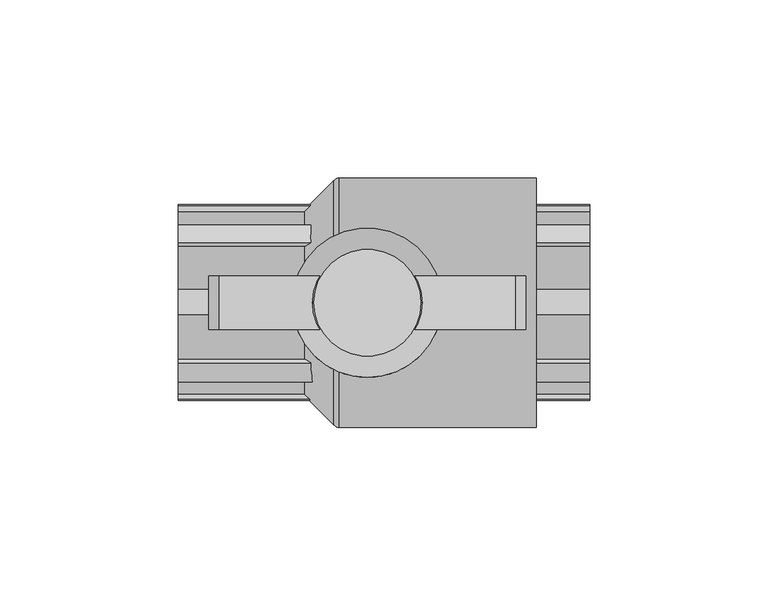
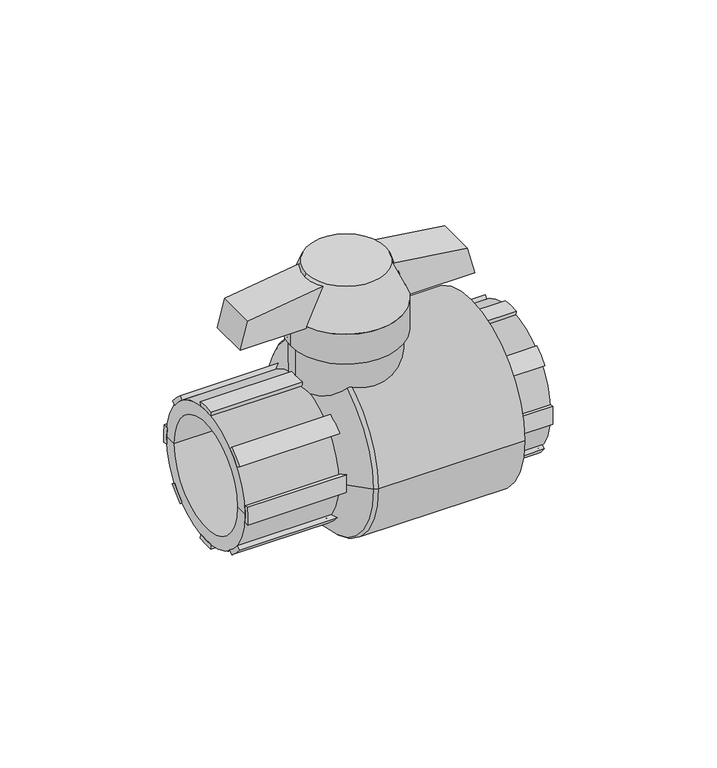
"""IFC4 building model written with IfcOpenShell, lengths in millimetres: valve geometry, Valvula Bola_Lubrizol_CPVC_FlowGuard_MX 38mm : Valvula Bola_Lubrizol_CPVC_FlowGuard_MX 38mm."""

from ifc_helpers import new_model, si_unit, point, frame, frame_2d, origin, place, context, project, spatial, polyline, circle_curve, ellipse_curve, trimmed, segment, composite_curve, outline, extrude, source, transform, mapped, element, save
from ifc_brep_helpers import plane_surface, cylinder_surface, revolved_surface, advanced_brep


def valve_b7df9ec0(model_context):
    return source(origin(), model_context, "Body", "SolidModel", [
        extrude(outline(polyline([(51.6194234, -26.3749423), (51.6194234, 62.6249423), (62.3168705, 59.75857), (66.6194234, 28.6250577), (66.6194234, 7.6249423), (62.3168705, -23.50857), (51.6194234, -26.3749423)])), frame((0.0, -7.5, 0.0), z_axis=(0.0, 1.0, 0.0), x_axis=(0.0, 0.0, 1.0)), (0.0, 0.0, 1.0), 15.0),
        extrude(outline(composite_curve([segment(trimmed(circle_curve(frame_2d((0.1687378, 5.7305188)), 20.2671095), [point((3.4847786, 25.7245079))], [point((-3.1583471, 25.7226731))], True, "CARTESIAN"), True, "CONTINUOUS"), segment(polyline([(-3.1583471, 25.7226731), (-3.3598633, 27.363891)]), True, "CONTINUOUS"), segment(trimmed(circle_curve(frame_2d((-0.1437365, 1.0901714)), 26.4698284), [point((-3.3598633, 27.363891))], [point((3.6955065, 27.2800936))], False, "CARTESIAN"), True, "CONTINUOUS"), segment(polyline([(3.6955065, 27.2800936), (3.4847786, 25.7245079)]), True, "CONTINUOUS")], self_intersect=False)), frame((65.625, 0.0, 0.0), z_axis=(1.0, 0.0, 0.0), x_axis=(0.0, 1.0, 0.0)), (0.0, 0.0, 1.0), 15.0),
        extrude(outline(composite_curve([segment(polyline([(25.4636419, 3.4494403), (27.3100388, 3.699563)]), True, "CONTINUOUS"), segment(trimmed(circle_curve(frame_2d((1.2010328, -0.6560793)), 26.4698284), [point((27.3100388, 3.699563))], [point((27.5303028, -3.3802961))], False, "CARTESIAN"), True, "CONTINUOUS"), segment(polyline([(27.5303028, -3.3802961), (25.7625889, -3.1632482)]), True, "CONTINUOUS"), segment(trimmed(circle_curve(frame_2d((5.6384806, -0.7599188)), 20.2671095), [point((25.7625889, -3.1632482))], [point((25.4636419, 3.4494403))], True, "CARTESIAN"), True, "CONTINUOUS")], self_intersect=False)), frame((65.625, 0.0, 0.0), z_axis=(1.0, 0.0, 0.0), x_axis=(0.0, 1.0, 0.0)), (0.0, 0.0, 1.0), 15.0),
        extrude(outline(composite_curve([segment(trimmed(circle_curve(frame_2d((3.7866187, 4.1193741)), 20.2671095), [point((20.4885583, 15.599833))], [point((15.9084149, 20.3618425))], True, "CARTESIAN"), True, "CONTINUOUS"), segment(polyline([(15.9084149, 20.3618425), (16.8927383, 21.621719)]), True, "CONTINUOUS"), segment(trimmed(circle_curve(frame_2d((0.8543867, 0.5641053)), 26.4698284), [point((16.8927383, 21.621719))], [point((21.8728053, 16.6537882))], False, "CARTESIAN"), True, "CONTINUOUS"), segment(polyline([(21.8728053, 16.6537882), (20.4885583, 15.599833)]), True, "CONTINUOUS")], self_intersect=False)), frame((65.625, 0.0, 0.0), z_axis=(1.0, 0.0, 0.0), x_axis=(0.0, 1.0, 0.0)), (0.0, 0.0, 1.0), 15.0),
        extrude(outline(composite_curve([segment(polyline([(20.6648778, -15.7340813), (21.9228348, -16.6918802)]), True, "CONTINUOUS"), segment(trimmed(circle_curve(frame_2d((1.3735841, -0.0071533)), 26.4698284), [point((21.9228348, -16.6918802))], [point((16.8070461, -21.512038))], False, "CARTESIAN"), True, "CONTINUOUS"), segment(polyline([(16.8070461, -21.512038), (15.9213431, -20.3783899)]), True, "CONTINUOUS"), segment(trimmed(circle_curve(frame_2d((4.3058161, -3.7701011)), 20.2671095), [point((15.9213431, -20.3783899))], [point((20.6648778, -15.7340813))], True, "CARTESIAN"), True, "CONTINUOUS")], self_intersect=False)), frame((65.625, 0.0, 0.0), z_axis=(1.0, 0.0, 0.0), x_axis=(0.0, 1.0, 0.0)), (0.0, 0.0, 1.0), 15.0),
        extrude(outline(composite_curve([segment(polyline([(3.4790922, -25.6825309), (3.7117206, -27.3997854)]), True, "CONTINUOUS"), segment(trimmed(circle_curve(frame_2d((0.04956, -1.1845152)), 26.4698284), [point((3.7117206, -27.3997854))], [point((-3.3683184, -27.4327517))], False, "CARTESIAN"), True, "CONTINUOUS"), segment(polyline([(-3.3683184, -27.4327517), (-3.162097, -25.7532136)]), True, "CONTINUOUS"), segment(trimmed(circle_curve(frame_2d((-0.0542794, -5.7258025)), 20.2671095), [point((-3.162097, -25.7532136))], [point((3.4790922, -25.6825309))], True, "CARTESIAN"), True, "CONTINUOUS")], self_intersect=False)), frame((65.625, 0.0, 0.0), z_axis=(1.0, 0.0, 0.0), x_axis=(0.0, 1.0, 0.0)), (0.0, 0.0, 1.0), 15.0),
        extrude(outline(composite_curve([segment(trimmed(circle_curve(frame_2d((-5.7562489, -0.0256569)), 20.2671095), [point((-25.7171987, 3.4837885))], [point((-25.7787069, -3.1652272))], True, "CARTESIAN"), True, "CONTINUOUS"), segment(polyline([(-25.7787069, -3.1652272), (-27.3296789, -3.3556626)]), True, "CONTINUOUS"), segment(trimmed(circle_curve(frame_2d((-1.03694, -0.2989166)), 26.4698284), [point((-27.3296789, -3.3556626))], [point((-27.2051909, 3.6853598))], False, "CARTESIAN"), True, "CONTINUOUS"), segment(polyline([(-27.2051909, 3.6853598), (-25.7171987, 3.4837885)]), True, "CONTINUOUS")], self_intersect=False)), frame((65.625, 0.0, 0.0), z_axis=(1.0, 0.0, 0.0), x_axis=(0.0, 1.0, 0.0)), (0.0, 0.0, 1.0), 15.0),
        extrude(outline(composite_curve([segment(polyline([(-20.7405385, 15.7916888), (-22.210197, 16.9106756)]), True, "CONTINUOUS"), segment(trimmed(circle_curve(frame_2d((-2.2776676, -0.5061577)), 26.4698284), [point((-22.210197, 16.9106756))], [point((-16.8625337, 21.5830589))], False, "CARTESIAN"), True, "CONTINUOUS"), segment(polyline([(-16.8625337, 21.5830589), (-15.9297193, 20.3891109)]), True, "CONTINUOUS"), segment(trimmed(circle_curve(frame_2d((-4.5227487, 3.6368946)), 20.2671095), [point((-15.9297193, 20.3891109))], [point((-20.7405385, 15.7916888))], True, "CARTESIAN"), True, "CONTINUOUS")], self_intersect=False)), frame((65.625, 0.0, 0.0), z_axis=(1.0, 0.0, 0.0), x_axis=(0.0, 1.0, 0.0)), (0.0, 0.0, 1.0), 15.0),
        extrude(outline(composite_curve([segment(trimmed(circle_curve(frame_2d((-4.206696, -3.6662616)), 20.2671095), [point((-20.5524206, -15.6484572))], [point((-15.8338545, -20.2664095))], True, "CARTESIAN"), True, "CONTINUOUS"), segment(polyline([(-15.8338545, -20.2664095), (-16.8759977, -21.600292)]), True, "CONTINUOUS"), segment(trimmed(circle_curve(frame_2d((-0.8591061, -0.5263507)), 26.4698284), [point((-16.8759977, -21.600292))], [point((-21.8575116, -16.6421436))], False, "CARTESIAN"), True, "CONTINUOUS"), segment(polyline([(-21.8575116, -16.6421436), (-20.5524206, -15.6484572)]), True, "CONTINUOUS")], self_intersect=False)), frame((65.625, 0.0, 0.0), z_axis=(1.0, 0.0, 0.0), x_axis=(0.0, 1.0, 0.0)), (0.0, 0.0, 1.0), 15.0),
        advanced_brep(
        [(3.125, 0.0, 67.6194234), (33.125, 0.0, 67.6194234), (-2.875, 0.0, 52.6194234), (39.125, 0.0, 52.6194234)],
        [
            (0, 1, circle_curve(frame((18.125, 0.0, 67.6194234), z_axis=(0.0, 0.0, 1.0), x_axis=(-1.0, 0.0, 0.0)), 15.0)),
            (1, 0, circle_curve(frame((18.125, 0.0, 67.6194234), z_axis=(0.0, 0.0, 1.0), x_axis=(1.0, 0.0, 0.0)), 15.0)),
            (2, 3, circle_curve(frame((18.125, 0.0, 52.6194234), z_axis=(0.0, 0.0, -1.0), x_axis=(1.0, 0.0, 0.0)), 21.0)),
            (3, 2, circle_curve(frame((18.125, 0.0, 52.6194234), z_axis=(0.0, 0.0, -1.0), x_axis=(-1.0, 0.0, 0.0)), 21.0)),
            (3, 1),
            (0, 2),
        ],
        [
            plane_surface(frame((18.125, 0.0, 67.6194234), z_axis=(0.0, 0.0, 1.0), x_axis=(0.0, -1.0, 0.0))),
            plane_surface(frame((18.125, 0.0, 52.6194234), z_axis=(0.0, 0.0, -1.0), x_axis=(0.0, -1.0, 0.0))),
            revolved_surface(polyline([(3.125, 0.0, 67.6194234), (-2.875, 0.0, 52.6194234)]), (18.125, 0.0, 105.1194234), (0.0, 0.0, -1.0)),
            revolved_surface(polyline([(33.125, 0.0, 67.6194234), (39.125, 0.0, 52.6194234)]), (18.125, 0.0, 105.1194234), (0.0, 0.0, -1.0)),
        ],
        [
            (0, [[1, 2]]),
            (1, [[3, 4]]),
            (2, [[-4, 5, -1, 6]]),
            (3, [[-3, -6, -2, -5]]),
        ],
    ),
        extrude(outline(composite_curve([segment(trimmed(circle_curve(frame_2d((18.125, 0.0)), 21.0), [point((-2.875, 0.0))], [point((39.125, 0.0))], False, "CARTESIAN"), True, "CONTINUOUS"), segment(trimmed(circle_curve(frame_2d((18.125, 0.0)), 21.0), [point((39.125, 0.0))], [point((-2.875, 0.0))], False, "CARTESIAN"), True, "CONTINUOUS")], self_intersect=False)), frame((0.0, 0.0, 40.6194234), z_axis=(0.0, 0.0, 1.0), x_axis=(1.0, 0.0, 0.0)), (0.0, 0.0, 1.0), 12.0),
        extrude(outline(composite_curve([segment(trimmed(circle_curve(frame_2d((0.1687378, 5.7305188)), 20.2671095), [point((3.4847786, 25.7245079))], [point((-3.1583471, 25.7226731))], True, "CARTESIAN"), True, "CONTINUOUS"), segment(polyline([(-3.1583471, 25.7226731), (-3.3598633, 27.363891)]), True, "CONTINUOUS"), segment(trimmed(circle_curve(frame_2d((-0.1437365, 1.0901714)), 26.4698284), [point((-3.3598633, 27.363891))], [point((3.6955065, 27.2800936))], False, "CARTESIAN"), True, "CONTINUOUS"), segment(polyline([(3.6955065, 27.2800936), (3.4847786, 25.7245079)]), True, "CONTINUOUS")], self_intersect=False)), frame((-35.0, 0.0, 0.0), z_axis=(1.0, 0.0, 0.0), x_axis=(0.0, 1.0, 0.0)), (0.0, 0.0, 1.0), 38.7739222),
        extrude(outline(composite_curve([segment(polyline([(25.4636419, 3.4494403), (27.3100388, 3.699563)]), True, "CONTINUOUS"), segment(trimmed(circle_curve(frame_2d((1.2010328, -0.6560793)), 26.4698284), [point((27.3100388, 3.699563))], [point((27.5303028, -3.3802961))], False, "CARTESIAN"), True, "CONTINUOUS"), segment(polyline([(27.5303028, -3.3802961), (25.7625889, -3.1632482)]), True, "CONTINUOUS"), segment(trimmed(circle_curve(frame_2d((5.6384806, -0.7599188)), 20.2671095), [point((25.7625889, -3.1632482))], [point((25.4636419, 3.4494403))], True, "CARTESIAN"), True, "CONTINUOUS")], self_intersect=False)), frame((-35.0, 0.0, 0.0), z_axis=(1.0, 0.0, 0.0), x_axis=(0.0, 1.0, 0.0)), (0.0, 0.0, 1.0), 38.7739222),
        extrude(outline(composite_curve([segment(trimmed(circle_curve(frame_2d((3.7866187, 4.1193741)), 20.2671095), [point((20.4885583, 15.599833))], [point((15.9084149, 20.3618425))], True, "CARTESIAN"), True, "CONTINUOUS"), segment(polyline([(15.9084149, 20.3618425), (16.8927383, 21.621719)]), True, "CONTINUOUS"), segment(trimmed(circle_curve(frame_2d((0.8543867, 0.5641053)), 26.4698284), [point((16.8927383, 21.621719))], [point((21.8728053, 16.6537882))], False, "CARTESIAN"), True, "CONTINUOUS"), segment(polyline([(21.8728053, 16.6537882), (20.4885583, 15.599833)]), True, "CONTINUOUS")], self_intersect=False)), frame((-35.0, 0.0, 0.0), z_axis=(1.0, 0.0, 0.0), x_axis=(0.0, 1.0, 0.0)), (0.0, 0.0, 1.0), 38.7739222),
        extrude(outline(composite_curve([segment(polyline([(20.6648778, -15.7340813), (21.9228348, -16.6918802)]), True, "CONTINUOUS"), segment(trimmed(circle_curve(frame_2d((1.3735841, -0.0071533)), 26.4698284), [point((21.9228348, -16.6918802))], [point((16.8070461, -21.512038))], False, "CARTESIAN"), True, "CONTINUOUS"), segment(polyline([(16.8070461, -21.512038), (15.9213431, -20.3783899)]), True, "CONTINUOUS"), segment(trimmed(circle_curve(frame_2d((4.3058161, -3.7701011)), 20.2671095), [point((15.9213431, -20.3783899))], [point((20.6648778, -15.7340813))], True, "CARTESIAN"), True, "CONTINUOUS")], self_intersect=False)), frame((-35.0, 0.0, 0.0), z_axis=(1.0, 0.0, 0.0), x_axis=(0.0, 1.0, 0.0)), (0.0, 0.0, 1.0), 38.7739222),
        extrude(outline(composite_curve([segment(polyline([(3.4790922, -25.6825309), (3.7117206, -27.3997854)]), True, "CONTINUOUS"), segment(trimmed(circle_curve(frame_2d((0.04956, -1.1845152)), 26.4698284), [point((3.7117206, -27.3997854))], [point((-3.3683184, -27.4327517))], False, "CARTESIAN"), True, "CONTINUOUS"), segment(polyline([(-3.3683184, -27.4327517), (-3.162097, -25.7532136)]), True, "CONTINUOUS"), segment(trimmed(circle_curve(frame_2d((-0.0542794, -5.7258025)), 20.2671095), [point((-3.162097, -25.7532136))], [point((3.4790922, -25.6825309))], True, "CARTESIAN"), True, "CONTINUOUS")], self_intersect=False)), frame((-35.0, 0.0, 0.0), z_axis=(1.0, 0.0, 0.0), x_axis=(0.0, 1.0, 0.0)), (0.0, 0.0, 1.0), 38.7739222),
        extrude(outline(composite_curve([segment(trimmed(circle_curve(frame_2d((-5.7562489, -0.0256569)), 20.2671095), [point((-25.7171987, 3.4837885))], [point((-25.7787069, -3.1652272))], True, "CARTESIAN"), True, "CONTINUOUS"), segment(polyline([(-25.7787069, -3.1652272), (-27.3296789, -3.3556626)]), True, "CONTINUOUS"), segment(trimmed(circle_curve(frame_2d((-1.03694, -0.2989166)), 26.4698284), [point((-27.3296789, -3.3556626))], [point((-27.2051909, 3.6853598))], False, "CARTESIAN"), True, "CONTINUOUS"), segment(polyline([(-27.2051909, 3.6853598), (-25.7171987, 3.4837885)]), True, "CONTINUOUS")], self_intersect=False)), frame((-35.0, 0.0, 0.0), z_axis=(1.0, 0.0, 0.0), x_axis=(0.0, 1.0, 0.0)), (0.0, 0.0, 1.0), 38.7739222),
        extrude(outline(composite_curve([segment(polyline([(-20.7405385, 15.7916888), (-22.210197, 16.9106756)]), True, "CONTINUOUS"), segment(trimmed(circle_curve(frame_2d((-2.2776676, -0.5061577)), 26.4698284), [point((-22.210197, 16.9106756))], [point((-16.8625337, 21.5830589))], False, "CARTESIAN"), True, "CONTINUOUS"), segment(polyline([(-16.8625337, 21.5830589), (-15.9297193, 20.3891109)]), True, "CONTINUOUS"), segment(trimmed(circle_curve(frame_2d((-4.5227487, 3.6368946)), 20.2671095), [point((-15.9297193, 20.3891109))], [point((-20.7405385, 15.7916888))], True, "CARTESIAN"), True, "CONTINUOUS")], self_intersect=False)), frame((-35.0, 0.0, 0.0), z_axis=(1.0, 0.0, 0.0), x_axis=(0.0, 1.0, 0.0)), (0.0, 0.0, 1.0), 38.7739222),
        extrude(outline(composite_curve([segment(trimmed(circle_curve(frame_2d((-4.206696, -3.6662616)), 20.2671095), [point((-20.5524206, -15.6484572))], [point((-15.8338545, -20.2664095))], True, "CARTESIAN"), True, "CONTINUOUS"), segment(polyline([(-15.8338545, -20.2664095), (-16.8759977, -21.600292)]), True, "CONTINUOUS"), segment(trimmed(circle_curve(frame_2d((-0.8591061, -0.5263507)), 26.4698284), [point((-16.8759977, -21.600292))], [point((-21.8575116, -16.6421436))], False, "CARTESIAN"), True, "CONTINUOUS"), segment(polyline([(-21.8575116, -16.6421436), (-20.5524206, -15.6484572)]), True, "CONTINUOUS")], self_intersect=False)), frame((-35.0, 0.0, 0.0), z_axis=(1.0, 0.0, 0.0), x_axis=(0.0, 1.0, 0.0)), (0.0, 0.0, 1.0), 38.7739222),
        extrude(outline(composite_curve([segment(trimmed(circle_curve(frame_2d((18.125, 0.0)), 19.0), [point((-0.875, 0.0))], [point((37.125, 0.0))], False, "CARTESIAN"), True, "CONTINUOUS"), segment(trimmed(circle_curve(frame_2d((18.125, 0.0)), 19.0), [point((37.125, 0.0))], [point((-0.875, 0.0))], False, "CARTESIAN"), True, "CONTINUOUS")], self_intersect=False)), frame((0.0, 0.0, -18.1360676), z_axis=(0.0, 0.0, 1.0), x_axis=(1.0, 0.0, 0.0)), (0.0, 0.0, 1.0), 58.755491),
        advanced_brep(
        [(55.625, -21.0, 0.0), (55.625, 21.0, 0.0), (55.625, 0.0, 0.0), (80.625, -21.0, 0.0), (80.625, 21.0, 0.0), (80.625, -26.0, 0.0), (80.625, 26.0, 0.0), (65.625, -26.0, 0.0), (65.625, 26.0, 0.0), (65.625, -35.0696383, 0.0), (65.625, 35.0696383, 0.0), (10.2627117, -35.0696383, 0.0), (10.2627117, 35.0696383, 0.0), (-35.0, -26.0, 0.0), (-35.0, 26.0, 0.0), (0.3803617, 26.0, 0.0), (0.3803617, -26.0, 0.0), (-35.0, -21.0, 0.0), (-35.0, 21.0, 0.0), (13.75, -21.0, 0.0), (13.75, 21.0, 0.0), (13.75, 0.0, 0.0), (8.75, -34.3696383, 0.0), (8.75, 34.3696383, 0.0)],
        [
            (0, 1, circle_curve(frame((55.625, 0.0, 0.0), z_axis=(1.0, 0.0, 0.0), x_axis=(0.0, 1.0, 0.0)), 21.0)),
            (1, 2),
            (2, 0),
            (1, 0, circle_curve(frame((55.625, 0.0, 0.0), z_axis=(1.0, 0.0, 0.0), x_axis=(0.0, 1.0, 0.0)), 21.0)),
            (3, 4, circle_curve(frame((80.625, 0.0, 0.0), z_axis=(1.0, 0.0, 0.0), x_axis=(0.0, 1.0, 0.0)), 21.0)),
            (4, 1),
            (0, 3),
            (4, 3, circle_curve(frame((80.625, 0.0, 0.0), z_axis=(1.0, 0.0, 0.0), x_axis=(0.0, 1.0, 0.0)), 21.0)),
            (5, 6, circle_curve(frame((80.625, 0.0, 0.0), z_axis=(1.0, 0.0, 0.0), x_axis=(0.0, 1.0, 0.0)), 26.0)),
            (6, 4),
            (3, 5),
            (6, 5, circle_curve(frame((80.625, 0.0, 0.0), z_axis=(1.0, 0.0, 0.0), x_axis=(0.0, 1.0, 0.0)), 26.0)),
            (7, 8, circle_curve(frame((65.625, 0.0, 0.0), z_axis=(1.0, 0.0, 0.0), x_axis=(0.0, 1.0, 0.0)), 26.0)),
            (8, 6),
            (5, 7),
            (8, 7, circle_curve(frame((65.625, 0.0, 0.0), z_axis=(1.0, 0.0, 0.0), x_axis=(0.0, 1.0, 0.0)), 26.0)),
            (9, 10, circle_curve(frame((65.625, 0.0, 0.0), z_axis=(1.0, 0.0, 0.0), x_axis=(0.0, 1.0, 0.0)), 35.0696383)),
            (10, 8),
            (7, 9),
            (10, 9, circle_curve(frame((65.625, 0.0, 0.0), z_axis=(1.0, 0.0, 0.0), x_axis=(0.0, 1.0, 0.0)), 35.0696383)),
            (11, 12, circle_curve(frame((10.2627117, 0.0, 0.0), z_axis=(1.0, 0.0, 0.0), x_axis=(0.0, 1.0, 0.0)), 35.0696383)),
            (12, 10),
            (9, 11),
            (12, 11, circle_curve(frame((10.2627117, 0.0, 0.0), z_axis=(1.0, 0.0, 0.0), x_axis=(0.0, 1.0, 0.0)), 35.0696383)),
            (13, 14, circle_curve(frame((-35.0, 0.0, 0.0), z_axis=(1.0, 0.0, 0.0), x_axis=(0.0, 1.0, 0.0)), 26.0)),
            (14, 15),
            (15, 16, circle_curve(frame((0.3803617, 0.0, 0.0), z_axis=(-1.0, 0.0, 0.0), x_axis=(0.0, 1.0, 0.0)), 26.0)),
            (16, 13),
            (14, 13, circle_curve(frame((-35.0, 0.0, 0.0), z_axis=(1.0, 0.0, 0.0), x_axis=(0.0, 1.0, 0.0)), 26.0)),
            (16, 15, circle_curve(frame((0.3803617, 0.0, 0.0), z_axis=(-1.0, 0.0, 0.0), x_axis=(0.0, 1.0, 0.0)), 26.0)),
            (17, 18, circle_curve(frame((-35.0, 0.0, 0.0), z_axis=(1.0, 0.0, 0.0), x_axis=(0.0, 1.0, 0.0)), 21.0)),
            (18, 14),
            (13, 17),
            (18, 17, circle_curve(frame((-35.0, 0.0, 0.0), z_axis=(1.0, 0.0, 0.0), x_axis=(0.0, 1.0, 0.0)), 21.0)),
            (19, 20, circle_curve(frame((13.75, 0.0, 0.0), z_axis=(1.0, 0.0, 0.0), x_axis=(0.0, 1.0, 0.0)), 21.0)),
            (20, 18),
            (17, 19),
            (20, 19, circle_curve(frame((13.75, 0.0, 0.0), z_axis=(1.0, 0.0, 0.0), x_axis=(0.0, 1.0, 0.0)), 21.0)),
            (21, 20),
            (19, 21),
            (22, 23, circle_curve(frame((8.75, 0.0, 0.0), z_axis=(1.0, 0.0, 0.0), x_axis=(0.0, 1.0, 0.0)), 34.3696383)),
            (23, 12, circle_curve(frame((10.4592757, 32.6603627, 0.0), z_axis=(0.0, 0.0, -1.0), x_axis=(1.0, 0.0, 0.0)), 2.4172808)),
            (11, 22, circle_curve(frame((10.4592757, -32.6603627, 0.0), z_axis=(0.0, 0.0, -1.0), x_axis=(1.0, 0.0, 0.0)), 2.4172808)),
            (23, 22, circle_curve(frame((8.75, 0.0, 0.0), z_axis=(1.0, 0.0, 0.0), x_axis=(0.0, 1.0, 0.0)), 34.3696383)),
            (15, 23),
            (22, 16),
        ],
        [
            plane_surface(frame((55.625, 0.0, 0.0), z_axis=(1.0, 0.0, 0.0), x_axis=(0.0, 1.0, 0.0))),
            revolved_surface(polyline([(55.625, 21.0, 0.0), (80.625, 21.0, 0.0)]), (-38.5589691, 0.0, 0.0), (-1.0, 0.0, 0.0)),
            plane_surface(frame((80.625, 0.0, 0.0), z_axis=(1.0, 0.0, 0.0), x_axis=(0.0, 1.0, 0.0))),
            cylinder_surface(frame((-38.5589691, 0.0, 0.0), z_axis=(-1.0, 0.0, 0.0), x_axis=(0.0, 1.0, 0.0)), 26.0),
            plane_surface(frame((65.625, 0.0, 0.0), z_axis=(1.0, 0.0, 0.0), x_axis=(0.0, 1.0, 0.0))),
            cylinder_surface(frame((-38.5589691, 0.0, 0.0), z_axis=(-1.0, 0.0, 0.0), x_axis=(0.0, 1.0, 0.0)), 35.0696383),
            plane_surface(frame((-35.0, 0.0, 0.0), z_axis=(-1.0, 0.0, 0.0), x_axis=(0.0, 1.0, 0.0))),
            revolved_surface(polyline([(-35.0, 21.0, 0.0), (13.75, 21.0, 0.0)]), (-38.5589691, 0.0, 0.0), (-1.0, 0.0, 0.0)),
            plane_surface(frame((13.75, 0.0, 0.0), z_axis=(-1.0, 0.0, 0.0), x_axis=(0.0, 1.0, 0.0))),
            revolved_surface(trimmed(ellipse_curve(frame((10.4592757, 32.6603627, 0.0), z_axis=(0.0, 0.0, 1.0), x_axis=(1.0, 0.0, 0.0)), 2.4172808, 2.4172808), [point((10.2627117, 35.0696383, 0.0))], [point((8.75, 34.3696383, 0.0))], True, "CARTESIAN"), (-38.5589691, 0.0, 0.0), (-1.0, 0.0, 0.0)),
            revolved_surface(polyline([(8.75, 34.3696383, 0.0), (0.3803617, 26.0, 0.0)]), (-38.5589691, 0.0, 0.0), (-1.0, 0.0, 0.0)),
        ],
        [
            (0, [[1, 2, 3]]),
            (0, [[4, -3, -2]]),
            (1, [[5, 6, -1, 7]]),
            (1, [[8, -7, -4, -6]]),
            (2, [[9, 10, -5, 11]]),
            (2, [[12, -11, -8, -10]]),
            (3, [[13, 14, -9, 15]]),
            (3, [[16, -15, -12, -14]]),
            (4, [[17, 18, -13, 19]]),
            (4, [[20, -19, -16, -18]]),
            (5, [[21, 22, -17, 23]]),
            (5, [[24, -23, -20, -22]]),
            (3, [[25, 26, 27, 28]]),
            (3, [[29, -28, 30, -26]]),
            (6, [[31, 32, -25, 33]]),
            (6, [[34, -33, -29, -32]]),
            (7, [[35, 36, -31, 37]]),
            (7, [[38, -37, -34, -36]]),
            (8, [[39, -35, 40]]),
            (8, [[-40, -38, -39]]),
            (9, [[41, 42, -21, 43]]),
            (9, [[44, -43, -24, -42]]),
            (10, [[-27, 45, -41, 46]]),
            (10, [[-30, -46, -44, -45]]),
        ],
    ),
    ])


if __name__ == "__main__":
    model = new_model("IFC4")
    model_context = context("Model", 3, world=origin())
    ifc_project = project(units=[si_unit("LENGTHUNIT", "METRE", prefix="MILLI")], contexts=[model_context])
    site = spatial("IfcSite", under=ifc_project)
    building = spatial("IfcBuilding", under=site)
    placement = place(None, origin())
    valve_shape = valve_b7df9ec0(model_context)
    element("IfcValve", 1, ObjectType="Valvula Bola_Lubrizol_CPVC_FlowGuard_MX 38mm : Valvula Bola_Lubrizol_CPVC_FlowGuard_MX 38mm", at=placement, inside=building, context=model_context, shape_type="MappedRepresentation", body=[
        mapped(valve_shape, transform((0.0, 0.0, 0.0), x_axis=(1.0, 0.0, 0.0), y_axis=(0.0, 1.0, 0.0), z_axis=(0.0, 0.0, 1.0))),
    ])
    save(model, "model.ifc")
